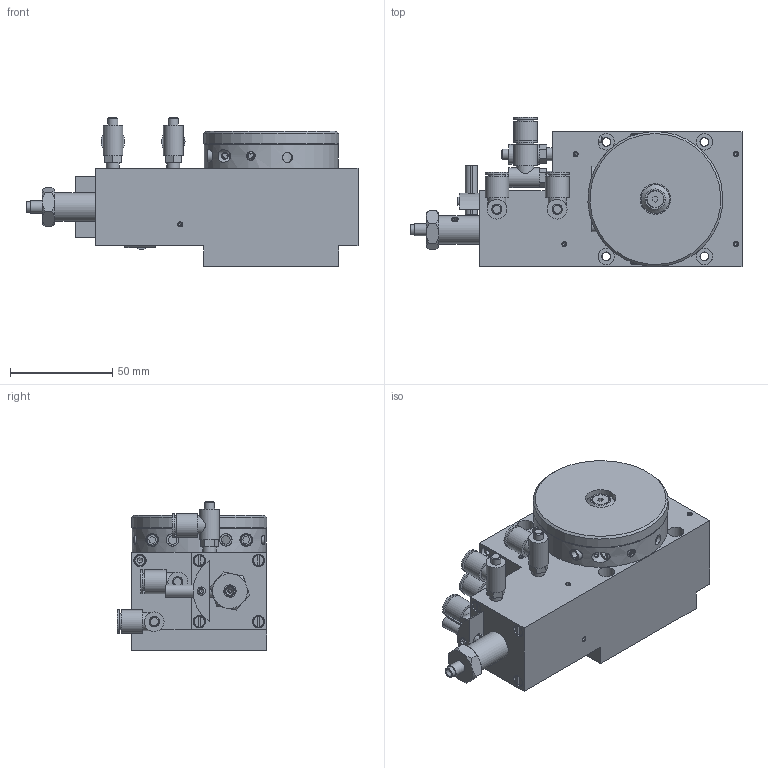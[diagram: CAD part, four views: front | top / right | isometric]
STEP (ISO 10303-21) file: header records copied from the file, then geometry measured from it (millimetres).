
FILE_DESCRIPTION((''),'2;1');
FILE_NAME('M:\Machines\_PLANS\7070000\BLOCS_STEP\7071000.stp','2015-03-30T10:15:10',('miemmola'),(''),'Autodesk Inventor 2012','Autodesk Inventor 2012','');
FILE_SCHEMA(('AUTOMOTIVE_DESIGN { 1 0 10303 214 1 1 1 1 }'));
Length unit declared in the file: millimetre
Products named in the file (1): 7071000
Bounding box: 162.4 x 73.1 x 72.72 mm (x, y, z)
Volume: 276183.1 mm3; surface area: 101399.2 mm2
Topology: 1 solids, 29 shells, 998 faces, 2307 edges, 1518 vertices
Faces by surface type: plane 529, cylinder 290, cone 146, torus 31, bspline 2
Full cylindrical faces by diameter (mm): 2 x1, 2.459 x34, 2.693 x4, 3 x16, 3.2 x26, 3.242 x15, 3.3 x1, 4 x6, 4.134 x12, 4.3 x12, 4.5 x1, 5 x10, 5.459 x2, 5.5 x8, 5.7 x2, 6 x37, 6.1 x3, 6.2 x3, 6.4 x4, 7 x2, 7.5 x1, 8 x13, 8.8 x4, 9.5 x1, 9.56 x1, 9.6 x4, 10.5 x1, 11.6 x8, 14 x2, 14.4 x1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
Entity records: 27427 total; most frequent: CARTESIAN_POINT 7023, DIRECTION 3994, ORIENTED_EDGE 3286, AXIS2_PLACEMENT_3D 1659, EDGE_LOOP 1647, EDGE_CURVE 1643, VERTEX_POINT 1274, STYLED_ITEM 998
